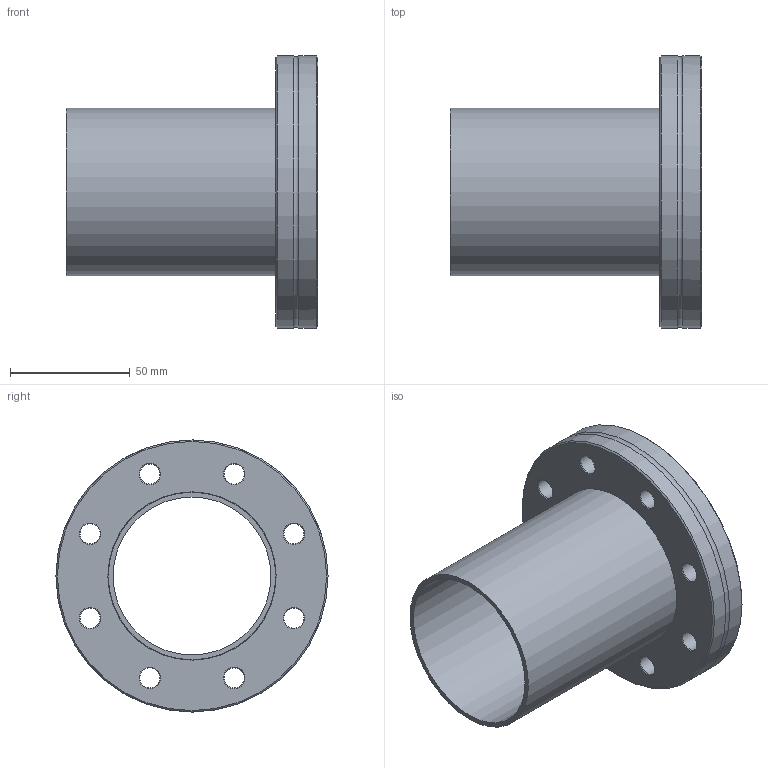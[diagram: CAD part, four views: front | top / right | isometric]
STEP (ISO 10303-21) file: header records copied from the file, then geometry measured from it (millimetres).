
FILE_DESCRIPTION((''),'2;1');
FILE_NAME('W:\13785_CF_Global_Fit_Umsetzung\082_Flange_with_Tube\M213-053.stp','2010-09-01T11:22:23',('KAA'),(''),'Autodesk Inventor 2011','Autodesk Inventor 2011','');
FILE_SCHEMA(('AUTOMOTIVE_DESIGN { 1 0 10303 214 1 1 1 1 }'));
Length unit declared in the file: millimetre
Products named in the file (1): 213-053
Bounding box: 105 x 113.7 x 113.7 mm (x, y, z)
Volume: 142936 mm3; surface area: 68055.4 mm2
Topology: 1 solids, 1 shells, 51 faces, 119 edges, 74 vertices
Faces by surface type: cone 23, cylinder 16, plane 7, torus 5
Full cylindrical faces by diameter (mm): 8.4 x8, 66 x2, 70 x1, 70.3 x2, 113.7 x2
Entity records: 1300 total; most frequent: DIRECTION 222, CARTESIAN_POINT 217, ORIENTED_EDGE 134, EDGE_LOOP 114, AXIS2_PLACEMENT_3D 110, EDGE_CURVE 67, VERTEX_POINT 63, FACE_BOUND 63
